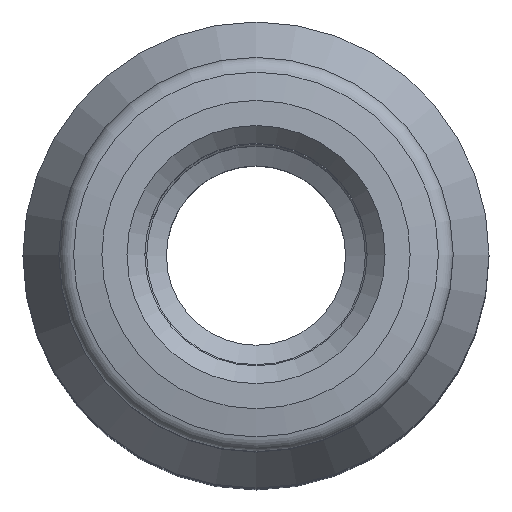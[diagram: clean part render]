
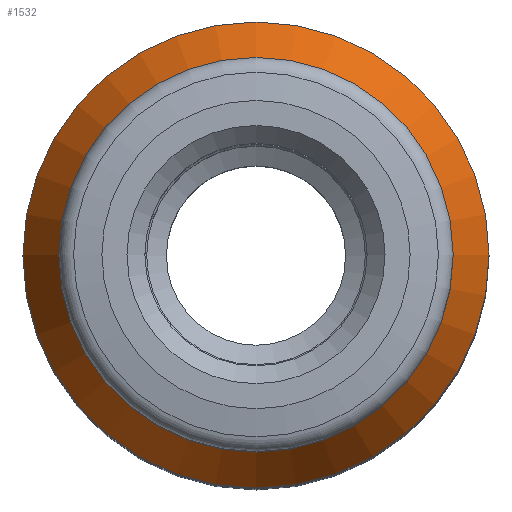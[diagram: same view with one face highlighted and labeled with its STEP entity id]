
A CAD part, top view. The second image highlights one B-rep face of the part: STEP entity #1532.
In plain terms, the highlighted conical face has half-angle 30 degrees and reference radius 6.5 mm.
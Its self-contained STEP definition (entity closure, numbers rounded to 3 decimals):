
#556=CONICAL_SURFACE('',#1423,6.5,30.);
#604=ORIENTED_EDGE('',*,*,#798,.F.);
#605=ORIENTED_EDGE('',*,*,#799,.T.);
#698=CIRCLE('',#1422,6.5);
#699=CIRCLE('',#1424,5.5);
#748=VERTEX_POINT('',#1272);
#749=VERTEX_POINT('',#1275);
#798=EDGE_CURVE('',#748,#748,#698,.T.);
#799=EDGE_CURVE('',#749,#749,#699,.T.);
#854=EDGE_LOOP('',(#604));
#855=EDGE_LOOP('',(#605));
#954=FACE_BOUND('',#854,.T.);
#955=FACE_BOUND('',#855,.T.);
#1066=DIRECTION('',(0.,-1.,0.));
#1067=DIRECTION('',(6.5,0.,0.));
#1068=DIRECTION('',(0.,-1.,0.));
#1069=DIRECTION('',(1.,0.,0.));
#1070=DIRECTION('',(0.,-1.,0.));
#1071=DIRECTION('',(5.5,0.,0.));
#1272=CARTESIAN_POINT('',(122.72,117.898,0.));
#1273=CARTESIAN_POINT('',(116.22,117.898,0.));
#1274=CARTESIAN_POINT('',(116.22,117.898,0.));
#1275=CARTESIAN_POINT('',(121.72,119.63,0.));
#1276=CARTESIAN_POINT('',(116.22,119.63,0.));
#1422=AXIS2_PLACEMENT_3D('',#1273,#1066,#1067);
#1423=AXIS2_PLACEMENT_3D('',#1274,#1068,#1069);
#1424=AXIS2_PLACEMENT_3D('',#1276,#1070,#1071);
#1532=ADVANCED_FACE('',(#954,#955),#556,.T.);
